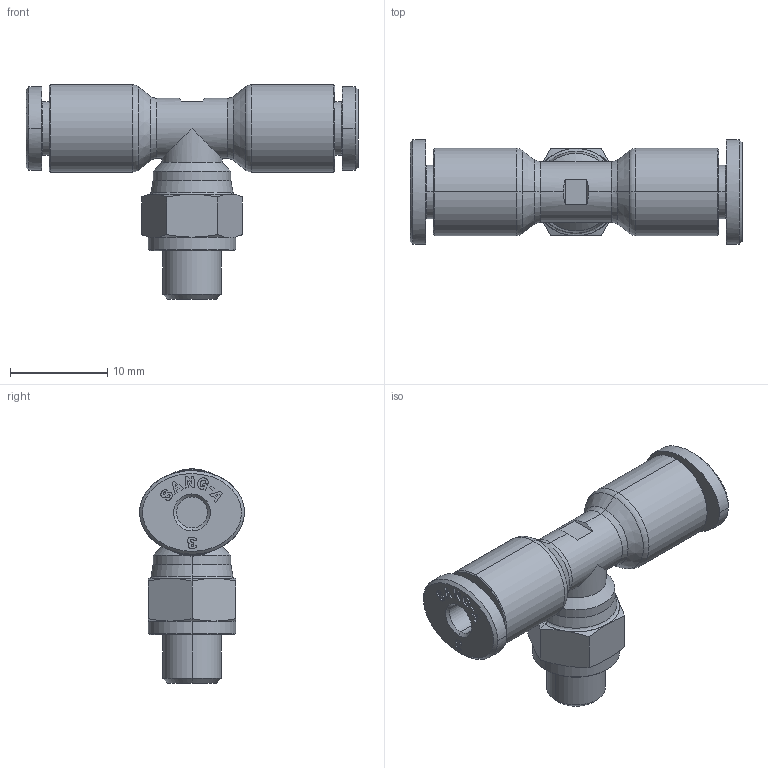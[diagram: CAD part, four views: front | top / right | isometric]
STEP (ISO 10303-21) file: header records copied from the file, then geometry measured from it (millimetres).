
FILE_DESCRIPTION((''),'2;1');
FILE_NAME('GPT 03M6(3D).stp','2012-12-26T18:52:35',(''),(''),'Mechanical Desktop.R8.0.24.0','Mechanical Desktop.R8.0.24.0',', , ');
FILE_SCHEMA(('CONFIG_CONTROL_DESIGN'));
Length unit declared in the file: millimetre
Products named in the file (2): GPT 03M6(3D); 睡ヶ1
Assembly tree (1 placements, depth 2):
  GPT 03M6(3D)
    睡ヶ1
Bounding box: 34.2 x 10.8 x 22.1 mm (x, y, z)
Volume: 2244.7 mm3; surface area: 1987.1 mm2
Topology: 1 solids, 1 shells, 535 faces, 1454 edges, 945 vertices
Faces by surface type: plane 385, bspline 64, cone 42, cylinder 40, torus 4
Entity records: 18229 total; most frequent: CARTESIAN_POINT 4764, ORIENTED_EDGE 2904, DIRECTION 2612, EDGE_CURVE 1452, VECTOR 1158, LINE 1158, VERTEX_POINT 945, AXIS2_PLACEMENT_3D 727
